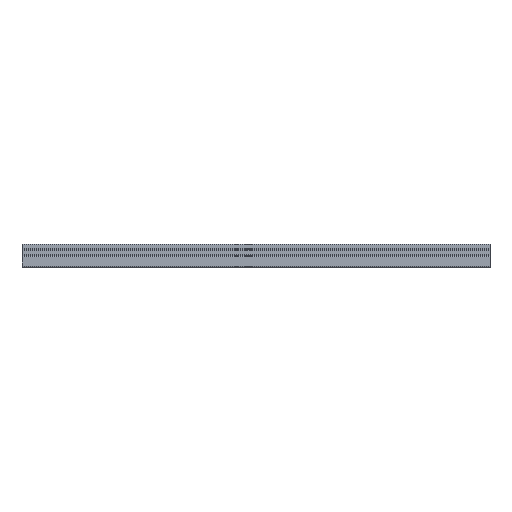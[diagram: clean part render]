
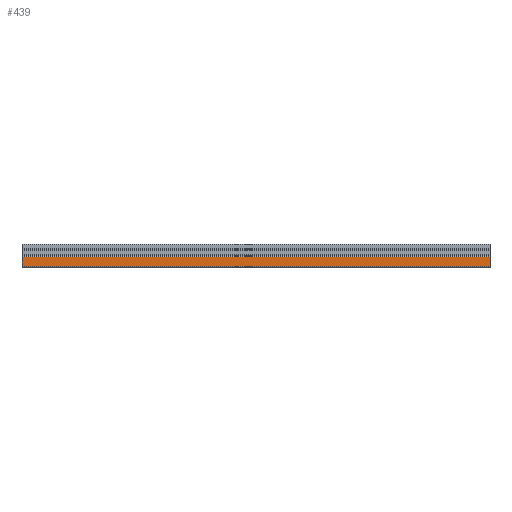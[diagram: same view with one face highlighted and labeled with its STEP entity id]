
A CAD part, front view. The second image highlights one B-rep face of the part: STEP entity #439.
In plain terms, the highlighted planar face has unit normal (0, -1, 0).
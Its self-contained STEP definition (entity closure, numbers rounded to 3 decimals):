
#339 = EDGE_CURVE( '', #687, #415, #937, .T. );
#387 = EDGE_CURVE( '', #397, #415, #990, .T. );
#397 = VERTEX_POINT( '', #1000 );
#415 = VERTEX_POINT( '', #1019 );
#439 = ADVANCED_FACE( '', ( #1046 ), #1047, .T. );
#609 = VERTEX_POINT( '', #1237 );
#687 = VERTEX_POINT( '', #1318 );
#717 = EDGE_CURVE( '', #397, #609, #1349, .T. );
#831 = EDGE_CURVE( '', #609, #687, #1472, .T. );
#937 = LINE( '', #1588, #1589 );
#990 = LINE( '', #1660, #1661 );
#1000 = CARTESIAN_POINT( '', ( 0., -3.75, 28.2 ) );
#1019 = CARTESIAN_POINT( '', ( 1200., -3.75, 28.2 ) );
#1046 = FACE_OUTER_BOUND( '', #1743, .T. );
#1047 = PLANE( '', #1744 );
#1237 = CARTESIAN_POINT( '', ( 0., -3.75, 3.75 ) );
#1318 = CARTESIAN_POINT( '', ( 1200., -3.75, 3.75 ) );
#1349 = LINE( '', #2150, #2151 );
#1472 = LINE( '', #2325, #2326 );
#1588 = CARTESIAN_POINT( '', ( 1200., -3.75, 28.2 ) );
#1589 = VECTOR( '', #2440, 1. );
#1660 = CARTESIAN_POINT( '', ( 0., -3.75, 28.2 ) );
#1661 = VECTOR( '', #2546, 1. );
#1743 = EDGE_LOOP( '', ( #2603, #2604, #2605, #2606 ) );
#1744 = AXIS2_PLACEMENT_3D( '', #2607, #2608, #2609 );
#2150 = CARTESIAN_POINT( '', ( 0., -3.75, 28.2 ) );
#2151 = VECTOR( '', #2939, 1. );
#2325 = CARTESIAN_POINT( '', ( 0., -3.75, 3.75 ) );
#2326 = VECTOR( '', #3052, 1. );
#2440 = DIRECTION( '', ( 0., 0., 1. ) );
#2546 = DIRECTION( '', ( 1., 0., 0. ) );
#2603 = ORIENTED_EDGE( '', *, *, #339, .T. );
#2604 = ORIENTED_EDGE( '', *, *, #387, .F. );
#2605 = ORIENTED_EDGE( '', *, *, #717, .T. );
#2606 = ORIENTED_EDGE( '', *, *, #831, .T. );
#2607 = CARTESIAN_POINT( '', ( 0., -3.75, 3.75 ) );
#2608 = DIRECTION( '', ( 0., -1., 0. ) );
#2609 = DIRECTION( '', ( 0., 0., -1. ) );
#2939 = DIRECTION( '', ( 0., 0., -1. ) );
#3052 = DIRECTION( '', ( 1., 0., 0. ) );
